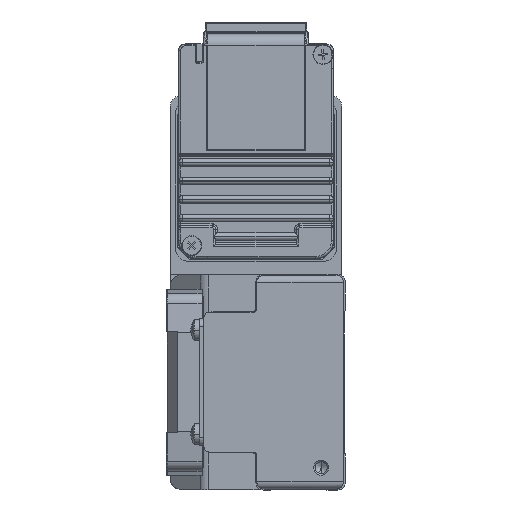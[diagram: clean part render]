
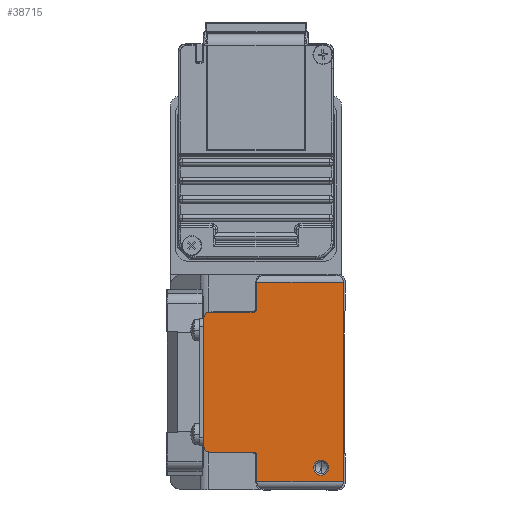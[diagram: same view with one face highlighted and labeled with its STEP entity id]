
A CAD part, left-side view. The second image highlights one B-rep face of the part: STEP entity #38715.
In plain terms, the highlighted planar face has unit normal (-1, 0, 0) as drawn and (0, 0, 1) by its records, which use the part's own axes.
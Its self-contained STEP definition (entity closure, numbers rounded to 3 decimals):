
#1495 = LINE ( 'NONE', #8636, #6635 ) ;
#1915 = EDGE_CURVE ( 'NONE', #38351, #28393, #37832, .T. ) ;
#2071 = CARTESIAN_POINT ( 'NONE',  ( 18.8, 36.5, 270. ) ) ;
#2469 = EDGE_CURVE ( 'NONE', #25894, #15706, #8488, .T. ) ;
#2678 = VERTEX_POINT ( 'NONE', #8359 ) ;
#2814 = VERTEX_POINT ( 'NONE', #21214 ) ;
#3761 = AXIS2_PLACEMENT_3D ( 'NONE', #44561, #9821, #13434 ) ;
#3808 = CIRCLE ( 'NONE', #23390, 1.5 ) ;
#4295 = DIRECTION ( 'NONE',  ( 1., 0., 0. ) ) ;
#4522 = PLANE ( 'NONE',  #10949 ) ;
#5163 = CARTESIAN_POINT ( 'NONE',  ( -26.8, 0.5, 270. ) ) ;
#5766 = DIRECTION ( 'NONE',  ( -1., 0., 0. ) ) ;
#6635 = VECTOR ( 'NONE', #33081, 1000. ) ;
#6814 = VERTEX_POINT ( 'NONE', #31877 ) ;
#7350 = ORIENTED_EDGE ( 'NONE', *, *, #23142, .T. ) ;
#7766 = DIRECTION ( 'NONE',  ( 0., -1., 0. ) ) ;
#8102 = VERTEX_POINT ( 'NONE', #14124 ) ;
#8104 = ORIENTED_EDGE ( 'NONE', *, *, #34521, .T. ) ;
#8279 = CARTESIAN_POINT ( 'NONE',  ( 18.8, 24.8, 270. ) ) ;
#8359 = CARTESIAN_POINT ( 'NONE',  ( -17.3, 38., 270. ) ) ;
#8454 = CARTESIAN_POINT ( 'NONE',  ( -19.8, 23.8, 270. ) ) ;
#8488 = LINE ( 'NONE', #18874, #15054 ) ;
#8636 = CARTESIAN_POINT ( 'NONE',  ( 17.3, 38., 270. ) ) ;
#8650 = CARTESIAN_POINT ( 'NONE',  ( -18.8, 24.8, 270. ) ) ;
#9729 = CARTESIAN_POINT ( 'NONE',  ( 26.8, 24., 270. ) ) ;
#9757 = DIRECTION ( 'NONE',  ( 0., 0., 1. ) ) ;
#9821 = DIRECTION ( 'NONE',  ( 0., 0., -1. ) ) ;
#9948 = VERTEX_POINT ( 'NONE', #2071 ) ;
#10456 = EDGE_LOOP ( 'NONE', ( #31813, #12174 ) ) ;
#10949 = AXIS2_PLACEMENT_3D ( 'NONE', #39485, #12273, #32417 ) ;
#11199 = DIRECTION ( 'NONE',  ( 0., 1., 0. ) ) ;
#12174 = ORIENTED_EDGE ( 'NONE', *, *, #29334, .T. ) ;
#12273 = DIRECTION ( 'NONE',  ( 0., 0., 1. ) ) ;
#12308 = CIRCLE ( 'NONE', #26767, 1.5 ) ;
#12877 = AXIS2_PLACEMENT_3D ( 'NONE', #17913, #22005, #4295 ) ;
#12905 = LINE ( 'NONE', #43810, #22215 ) ;
#13076 = VECTOR ( 'NONE', #5766, 1000. ) ;
#13434 = DIRECTION ( 'NONE',  ( -1., 0., 0. ) ) ;
#13450 = VECTOR ( 'NONE', #7766, 1000. ) ;
#14124 = CARTESIAN_POINT ( 'NONE',  ( 19.8, 23.8, 270. ) ) ;
#15054 = VECTOR ( 'NONE', #29096, 1000. ) ;
#15386 = DIRECTION ( 'NONE',  ( 0., 0., -1. ) ) ;
#15394 = DIRECTION ( 'NONE',  ( 1., 0., 0. ) ) ;
#15706 = VERTEX_POINT ( 'NONE', #25850 ) ;
#16727 = DIRECTION ( 'NONE',  ( 0., -1., 0. ) ) ;
#17440 = DIRECTION ( 'NONE',  ( 1., 0., 0. ) ) ;
#17488 = FACE_OUTER_BOUND ( 'NONE', #38334, .T. ) ;
#17913 = CARTESIAN_POINT ( 'NONE',  ( 19.8, 24.8, 270. ) ) ;
#18133 = CARTESIAN_POINT ( 'NONE',  ( -21., 6.5, 270. ) ) ;
#18232 = CIRCLE ( 'NONE', #3761, 2. ) ;
#18572 = CARTESIAN_POINT ( 'NONE',  ( -23., 6.5, 270. ) ) ;
#18874 = CARTESIAN_POINT ( 'NONE',  ( -19.8, 23.8, 270. ) ) ;
#19151 = ORIENTED_EDGE ( 'NONE', *, *, #32535, .T. ) ;
#19680 = EDGE_CURVE ( 'NONE', #25894, #28393, #27253, .T. ) ;
#19701 = EDGE_CURVE ( 'NONE', #40735, #36166, #12905, .T. ) ;
#20438 = EDGE_CURVE ( 'NONE', #37183, #8102, #34574, .T. ) ;
#21214 = CARTESIAN_POINT ( 'NONE',  ( 17.3, 38., 270. ) ) ;
#21565 = FACE_BOUND ( 'NONE', #10456, .T. ) ;
#22005 = DIRECTION ( 'NONE',  ( 0., 0., 1. ) ) ;
#22215 = VECTOR ( 'NONE', #15394, 1000. ) ;
#23020 = LINE ( 'NONE', #36816, #13076 ) ;
#23098 = ORIENTED_EDGE ( 'NONE', *, *, #19680, .F. ) ;
#23142 = EDGE_CURVE ( 'NONE', #2814, #2678, #1495, .T. ) ;
#23241 = CARTESIAN_POINT ( 'NONE',  ( -18.8, 36.5, 270. ) ) ;
#23390 = AXIS2_PLACEMENT_3D ( 'NONE', #30606, #9757, #17440 ) ;
#24233 = CARTESIAN_POINT ( 'NONE',  ( 26.8, 0.5, 270. ) ) ;
#24240 = DIRECTION ( 'NONE',  ( 0., -1., 0. ) ) ;
#24948 = CARTESIAN_POINT ( 'NONE',  ( -19.8, 24.8, 270. ) ) ;
#25062 = CIRCLE ( 'NONE', #43973, 2. ) ;
#25174 = CARTESIAN_POINT ( 'NONE',  ( 17.3, 36.5, 270. ) ) ;
#25215 = CARTESIAN_POINT ( 'NONE',  ( -26.8, 24., 270. ) ) ;
#25604 = VERTEX_POINT ( 'NONE', #27515 ) ;
#25624 = DIRECTION ( 'NONE',  ( 1., 0., 0. ) ) ;
#25632 = DIRECTION ( 'NONE',  ( 0., 0., 1. ) ) ;
#25672 = ORIENTED_EDGE ( 'NONE', *, *, #1915, .T. ) ;
#25850 = CARTESIAN_POINT ( 'NONE',  ( -26.8, 23.8, 270. ) ) ;
#25894 = VERTEX_POINT ( 'NONE', #8454 ) ;
#26767 = AXIS2_PLACEMENT_3D ( 'NONE', #25174, #25632, #39009 ) ;
#26959 = LINE ( 'NONE', #9729, #43857 ) ;
#27253 = CIRCLE ( 'NONE', #36636, 1. ) ;
#27515 = CARTESIAN_POINT ( 'NONE',  ( 26.8, 23.8, 270. ) ) ;
#28393 = VERTEX_POINT ( 'NONE', #8650 ) ;
#29096 = DIRECTION ( 'NONE',  ( -1., 0., 0. ) ) ;
#29334 = EDGE_CURVE ( 'NONE', #39454, #6814, #18232, .T. ) ;
#30606 = CARTESIAN_POINT ( 'NONE',  ( -17.3, 36.5, 270. ) ) ;
#30733 = ORIENTED_EDGE ( 'NONE', *, *, #40106, .T. ) ;
#30856 = EDGE_CURVE ( 'NONE', #25604, #36166, #26959, .T. ) ;
#31251 = CARTESIAN_POINT ( 'NONE',  ( -18.8, 36.5, 270. ) ) ;
#31813 = ORIENTED_EDGE ( 'NONE', *, *, #35229, .T. ) ;
#31877 = CARTESIAN_POINT ( 'NONE',  ( -25., 6.5, 270. ) ) ;
#32043 = LINE ( 'NONE', #8279, #39637 ) ;
#32417 = DIRECTION ( 'NONE',  ( 1., 0., 0. ) ) ;
#32535 = EDGE_CURVE ( 'NONE', #2678, #38351, #3808, .T. ) ;
#33081 = DIRECTION ( 'NONE',  ( -1., 0., 0. ) ) ;
#33658 = ORIENTED_EDGE ( 'NONE', *, *, #30856, .F. ) ;
#33933 = CARTESIAN_POINT ( 'NONE',  ( 18.8, 24.8, 270. ) ) ;
#34521 = EDGE_CURVE ( 'NONE', #37183, #9948, #32043, .T. ) ;
#34574 = CIRCLE ( 'NONE', #12877, 1. ) ;
#34905 = EDGE_CURVE ( 'NONE', #15706, #40735, #35624, .T. ) ;
#35229 = EDGE_CURVE ( 'NONE', #6814, #39454, #25062, .T. ) ;
#35624 = LINE ( 'NONE', #25215, #13450 ) ;
#36023 = DIRECTION ( 'NONE',  ( 0., 0., 1. ) ) ;
#36166 = VERTEX_POINT ( 'NONE', #24233 ) ;
#36636 = AXIS2_PLACEMENT_3D ( 'NONE', #24948, #36023, #25624 ) ;
#36816 = CARTESIAN_POINT ( 'NONE',  ( 26.8, 23.8, 270. ) ) ;
#37183 = VERTEX_POINT ( 'NONE', #33933 ) ;
#37832 = LINE ( 'NONE', #31251, #44014 ) ;
#38088 = ORIENTED_EDGE ( 'NONE', *, *, #39455, .T. ) ;
#38334 = EDGE_LOOP ( 'NONE', ( #25672, #23098, #40720, #38866, #43782, #33658, #30733, #44613, #8104, #38088, #7350, #19151 ) ) ;
#38351 = VERTEX_POINT ( 'NONE', #23241 ) ;
#38715 = ADVANCED_FACE ( 'NONE', ( #21565, #17488 ), #4522, .T. ) ;
#38866 = ORIENTED_EDGE ( 'NONE', *, *, #34905, .T. ) ;
#39009 = DIRECTION ( 'NONE',  ( 1., 0., 0. ) ) ;
#39454 = VERTEX_POINT ( 'NONE', #18133 ) ;
#39455 = EDGE_CURVE ( 'NONE', #9948, #2814, #12308, .T. ) ;
#39485 = CARTESIAN_POINT ( 'NONE',  ( -26.8, 21.8, 270. ) ) ;
#39637 = VECTOR ( 'NONE', #11199, 1000. ) ;
#40106 = EDGE_CURVE ( 'NONE', #25604, #8102, #23020, .T. ) ;
#40149 = DIRECTION ( 'NONE',  ( -1., 0., 0. ) ) ;
#40720 = ORIENTED_EDGE ( 'NONE', *, *, #2469, .T. ) ;
#40735 = VERTEX_POINT ( 'NONE', #5163 ) ;
#43782 = ORIENTED_EDGE ( 'NONE', *, *, #19701, .T. ) ;
#43810 = CARTESIAN_POINT ( 'NONE',  ( -26.8, 0.5, 270. ) ) ;
#43857 = VECTOR ( 'NONE', #16727, 1000. ) ;
#43973 = AXIS2_PLACEMENT_3D ( 'NONE', #18572, #15386, #40149 ) ;
#44014 = VECTOR ( 'NONE', #24240, 1000. ) ;
#44561 = CARTESIAN_POINT ( 'NONE',  ( -23., 6.5, 270. ) ) ;
#44613 = ORIENTED_EDGE ( 'NONE', *, *, #20438, .F. ) ;
